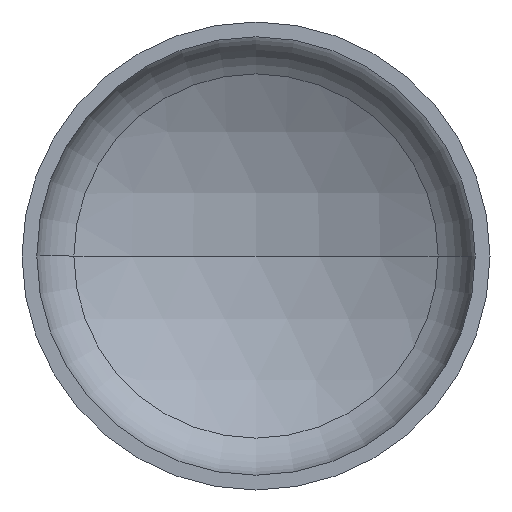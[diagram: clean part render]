
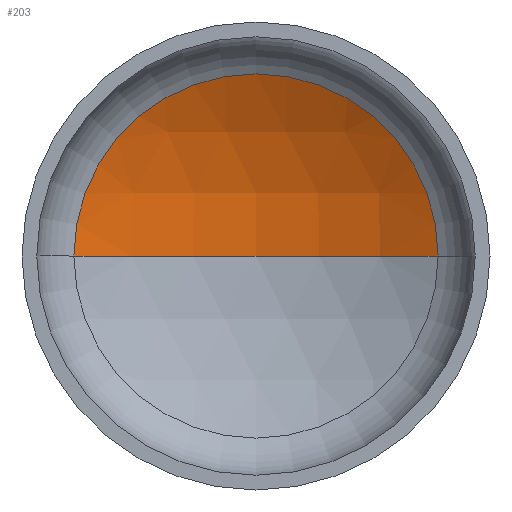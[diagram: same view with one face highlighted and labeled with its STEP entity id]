
A CAD part, front view. The second image highlights one B-rep face of the part: STEP entity #203.
In plain terms, the highlighted spherical face has radius 2880 mm.
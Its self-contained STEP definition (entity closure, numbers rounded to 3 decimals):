
#1 = ORIENTED_EDGE ( 'NONE', *, *, #361, .F. ) ;
#4 = AXIS2_PLACEMENT_3D ( 'NONE', #258, #30, #380 ) ;
#10 = EDGE_LOOP ( 'NONE', ( #1, #151, #107 ) ) ;
#13 = AXIS2_PLACEMENT_3D ( 'NONE', #74, #101, #118 ) ;
#30 = DIRECTION ( 'NONE',  ( 0., -1., 0. ) ) ;
#56 = AXIS2_PLACEMENT_3D ( 'NONE', #309, #183, #249 ) ;
#63 = VERTEX_POINT ( 'NONE', #279 ) ;
#73 = VERTEX_POINT ( 'NONE', #239 ) ;
#74 = CARTESIAN_POINT ( 'NONE',  ( 0., -1956.37, 0. ) ) ;
#101 = DIRECTION ( 'NONE',  ( 0., 0., 1. ) ) ;
#106 = VERTEX_POINT ( 'NONE', #223 ) ;
#107 = ORIENTED_EDGE ( 'NONE', *, *, #381, .T. ) ;
#118 = DIRECTION ( 'NONE',  ( 1., 0., 0. ) ) ;
#123 = DIRECTION ( 'NONE',  ( 0., 0., -1. ) ) ;
#134 = CIRCLE ( 'NONE', #4, 1400.981 ) ;
#151 = ORIENTED_EDGE ( 'NONE', *, *, #379, .T. ) ;
#183 = DIRECTION ( 'NONE',  ( 0., 0., -1. ) ) ;
#203 = ADVANCED_FACE ( 'NONE', ( #375 ), #250, .F. ) ;
#223 = CARTESIAN_POINT ( 'NONE',  ( 1400.981, 559.908, 0. ) ) ;
#233 = AXIS2_PLACEMENT_3D ( 'NONE', #289, #123, #313 ) ;
#239 = CARTESIAN_POINT ( 'NONE',  ( 0., 923.63, 0. ) ) ;
#249 = DIRECTION ( 'NONE',  ( -1., 0., 0. ) ) ;
#250 = SPHERICAL_SURFACE ( 'NONE', #56, 2880. ) ;
#258 = CARTESIAN_POINT ( 'NONE',  ( 0., 559.908, 0. ) ) ;
#269 = CIRCLE ( 'NONE', #13, 2880. ) ;
#279 = CARTESIAN_POINT ( 'NONE',  ( -1400.981, 559.908, 0. ) ) ;
#289 = CARTESIAN_POINT ( 'NONE',  ( 0., -1956.37, 0. ) ) ;
#309 = CARTESIAN_POINT ( 'NONE',  ( 0., -1956.37, 0. ) ) ;
#313 = DIRECTION ( 'NONE',  ( -1., 0., 0. ) ) ;
#331 = CIRCLE ( 'NONE', #233, 2880. ) ;
#361 = EDGE_CURVE ( 'NONE', #73, #63, #269, .T. ) ;
#375 = FACE_OUTER_BOUND ( 'NONE', #10, .T. ) ;
#379 = EDGE_CURVE ( 'NONE', #73, #106, #331, .T. ) ;
#380 = DIRECTION ( 'NONE',  ( 1., 0., 0. ) ) ;
#381 = EDGE_CURVE ( 'NONE', #106, #63, #134, .T. ) ;
